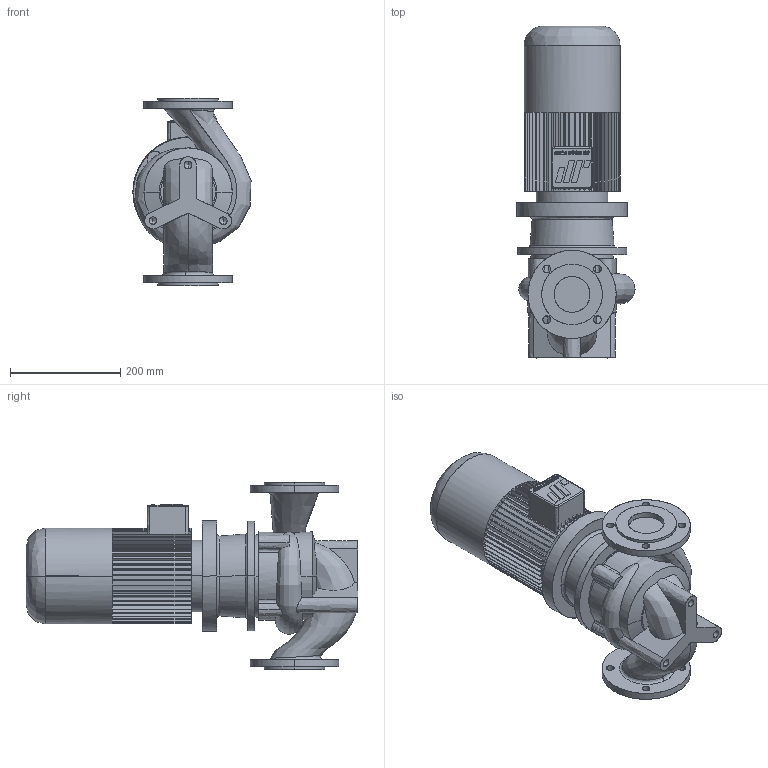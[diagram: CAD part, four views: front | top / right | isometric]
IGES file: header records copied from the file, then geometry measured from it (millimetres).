
Start section: CombiLine
Global section: file name: CLB_65-125_IEC100L.igs; native system:  By UGS Corp.; preprocessor: XPlus GENERIC/IGES 3.0; author: Stageplaats; organization: Johnson Pump Water B.V.; date: 20070713.132124; units: millimetre
Bounding box: 214.24 x 602 x 340 mm (x, y, z)
Surface area: 712024.8 mm2 (no closed solid volume)
Topology: 0 solids, 0 shells, 522 faces, 3168 edges, 3162 vertices
Faces by surface type: bspline 522
